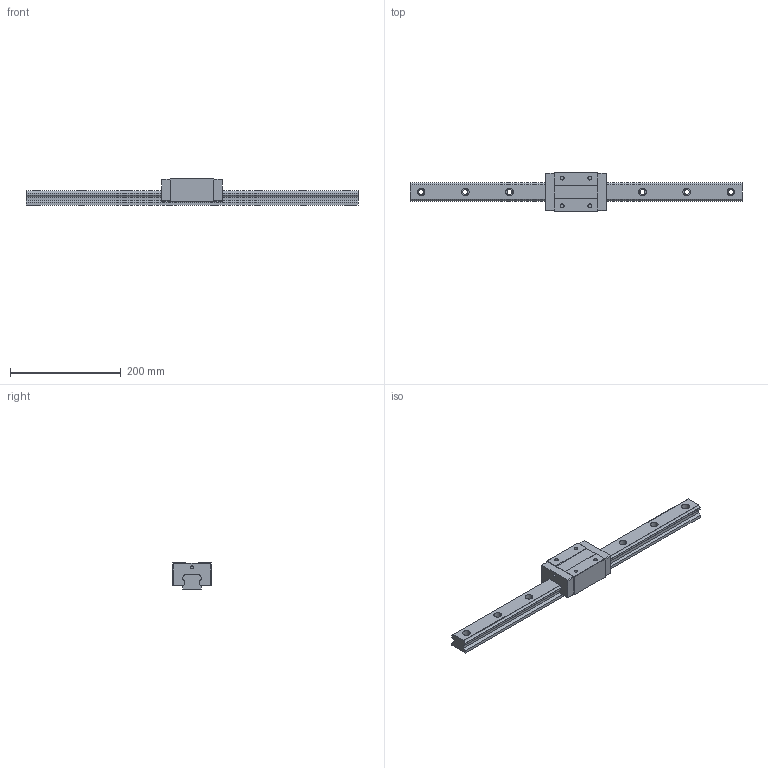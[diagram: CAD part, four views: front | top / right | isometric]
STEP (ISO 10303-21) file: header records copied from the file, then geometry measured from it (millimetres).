
FILE_DESCRIPTION (( 'STEP AP203' ), '1' );
FILE_NAME ('TRS35VN-XN.STEP', '2023-02-09T09:42:06', ( '' ), ( '' ), 'SwSTEP 2.0', 'SolidWorks 2019', '' );
FILE_SCHEMA (( 'CONFIG_CONTROL_DESIGN' ));
Length unit declared in the file: millimetre
Products named in the file (1): TRS35VN-XN
Bounding box: 600 x 70 x 48 mm (x, y, z)
Volume: 690182 mm3; surface area: 124781 mm2
Topology: 4 solids, 4 shells, 150 faces, 384 edges, 256 vertices
Faces by surface type: plane 86, cylinder 64
Entity records: 4679 total; most frequent: DIRECTION 814, CARTESIAN_POINT 791, ORIENTED_EDGE 768, EDGE_CURVE 384, AXIS2_PLACEMENT_3D 279, VECTOR 256, VERTEX_POINT 256, LINE 256
